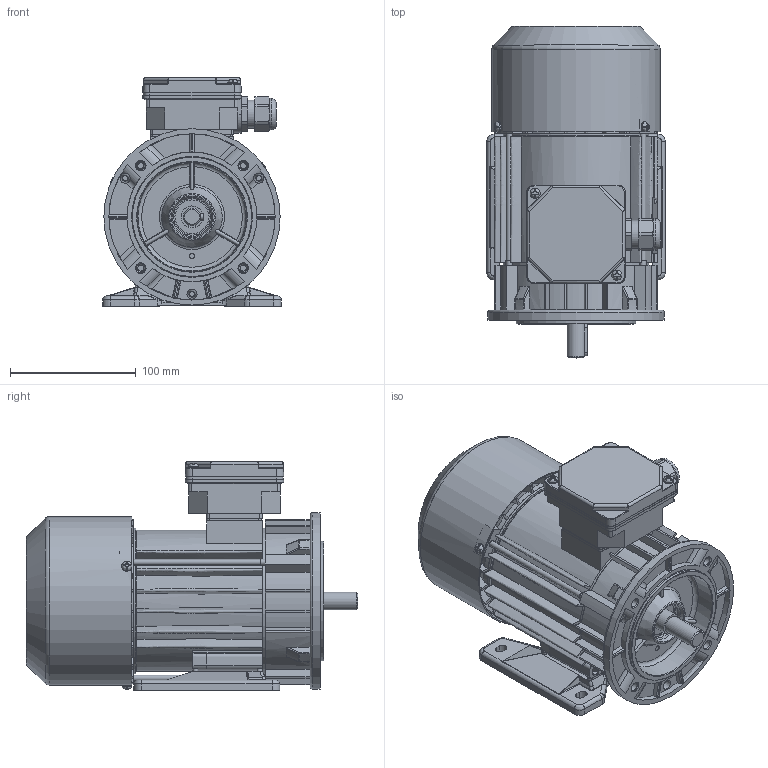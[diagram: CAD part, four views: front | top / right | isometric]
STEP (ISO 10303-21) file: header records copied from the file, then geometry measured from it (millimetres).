
FILE_DESCRIPTION( ( 'Unknown' ), '1' );
FILE_NAME( 'G:/Poczta Tk-1/STP/w.m.71/Sh71/SLh71-.C1.stp', 'Unknown', ( 'K. Szlosek' ), ( 'BESEL S.A.' ), 'PSStep 17.0.49', 'Unknown', ' ' );
FILE_SCHEMA( ( 'AUTOMOTIVE_DESIGN { 1 0 10303 214 1 1 1 1 }' ) );
Length unit declared in the file: millimetre
Products named in the file (30): skrznka zaciskowa trójfazowa ; K4-2820 Uszczelka nr 2 Sh71,80; Dławnica M20x1,5; K2-0859 Podstawa skrzynki 6-cio zaciskowej; K2-0860 Pokrywka skrzynki zaciskowej; Assem1; K3-2975 Osłona przewietrznika Sh71-.B,C; K4-2320 Uszczelka nr 1 Sh71,80; K1-1194 Kadłub z zamkami Sh71-.C; K3-6469 Tarcza łożyskowa P S(E,M)h71-B,C; Wpust A5x5x25; Wkręt samogwintujący M4x8; Nitokołek A 2x6; k3-4489 Wał SKh71 x-2C1; Wkręt samogwintujący M4x16; K3-3984 Przewietrznik Sh71; Łożysko 6203; Śruba ściągająca E_M5x130; Tabliczka znamionowa 32x44; K1-1246 Tarcza kołnierzowa B14_1 w.m. 71; K1-0448 Łapa Sh71-.. 
Assembly tree (45 placements, depth 3):
  Assem1
    K3-2975 Osłona przewietrznika Sh71-.B,C
    K4-2320 Uszczelka nr 1 Sh71,80
    K1-1194 Kadłub z zamkami Sh71-.C
    K3-6469 Tarcza łożyskowa P S(E,M)h71-B,C
    Wpust A5x5x25
    Wkręt samogwintujący M4x8  x3
    Nitokołek A 2x6  x2
    k3-4489 Wał SKh71 x-2C1
    Wkręt samogwintujący M4x16  x2
    K3-3984 Przewietrznik Sh71
    Łożysko 6203  x2
    Łożysko 6203  x2
    Łożysko 6203  x2
    Łożysko 6203  x2
    Łożysko 6203  x2
    Łożysko 6203  x2
    Łożysko 6203  x2
    Łożysko 6203  x2
    Łożysko 6203  x2
    Łożysko 6203  x2
    Śruba ściągająca E_M5x130  x3
    Tabliczka znamionowa 32x44
    K1-1246 Tarcza kołnierzowa B14_1 w.m. 71
    K1-0448 Łapa Sh71-.. 
    skrznka zaciskowa trójfazowa 
      K4-2820 Uszczelka nr 2 Sh71,80
      Dławnica M20x1,5
      K2-0859 Podstawa skrzynki 6-cio zaciskowej
      K2-0860 Pokrywka skrzynki zaciskowej
Bounding box: 141.93 x 263.5 x 181.5 mm (x, y, z)
Volume: 782506.2 mm3; surface area: 489464.2 mm2
Topology: 44 solids, 60 shells, 2693 faces, 7289 edges, 4659 vertices
Faces by surface type: plane 1090, cylinder 782, bspline 391, torus 203, cone 177, sphere 50
Full cylindrical faces by diameter (mm): 2 x2, 2.4 x2, 3.7 x7, 3.8 x4, 4 x6, 4.134 x3, 4.5 x1, 4.6 x3, 4.8 x4, 5 x7, 5.5 x3, 5.8 x4, 6.8 x4, 7 x1, 8 x9, 14 x1, 15.9 x1, 16.1 x1, 16.5 x1, 17 x4, 17.4 x2, 18.376 x1, 18.38 x1, 20 x1, 22 x2, 22.3 x1, 22.5 x1, 23.1 x1, 24 x1, 24.498 x4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
Entity records: 156259 total; most frequent: CARTESIAN_POINT 75371, ORIENTED_EDGE 13058, DIRECTION 11701, EDGE_CURVE 6529, AXIS2_PLACEMENT_3D 4463, VERTEX_POINT 4325, EDGE_LOOP 2961, LINE 2775
